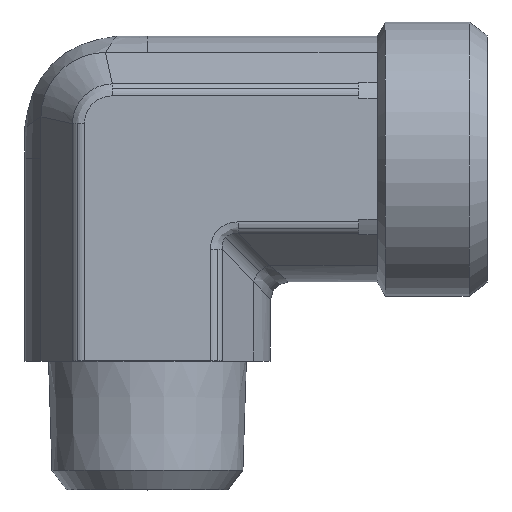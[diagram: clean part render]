
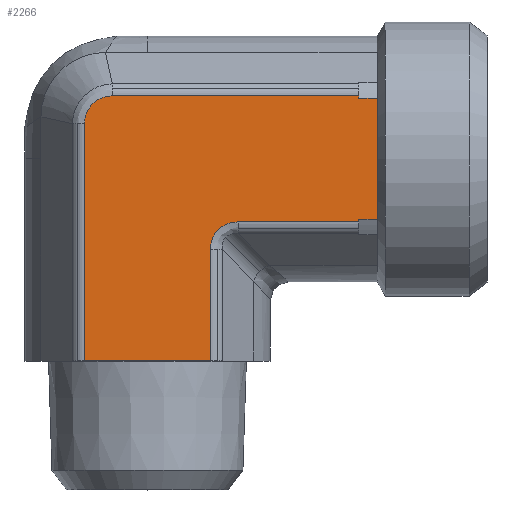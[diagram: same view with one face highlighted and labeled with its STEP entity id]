
A CAD part, top view. The second image highlights one B-rep face of the part: STEP entity #2266.
In plain terms, the highlighted planar face has unit normal (0, 0, 1) as drawn and (0, -1, 0) by its records, which use the part's own axes.
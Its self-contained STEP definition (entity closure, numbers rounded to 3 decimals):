
#319=CARTESIAN_POINT('',(5.387,-13.375,6.856));
#320=VERTEX_POINT('',#319);
#328=CARTESIAN_POINT('',(17.5,-13.375,6.856));
#329=VERTEX_POINT('',#328);
#330=CARTESIAN_POINT('',(5.387,-13.375,6.856));
#331=DIRECTION('',(1.0,0.0,0.0));
#332=VECTOR('',#331,12.113);
#333=LINE('',#330,#332);
#334=EDGE_CURVE('',#320,#329,#333,.T.);
#443=CARTESIAN_POINT('',(-11.356,-13.375,-3.819));
#444=VERTEX_POINT('',#443);
#452=CARTESIAN_POINT('',(-11.356,-13.375,23.0));
#453=VERTEX_POINT('',#452);
#454=CARTESIAN_POINT('',(-11.356,-13.375,-3.819));
#455=DIRECTION('',(0.0,0.0,1.0));
#456=VECTOR('',#455,26.819);
#457=LINE('',#454,#456);
#458=EDGE_CURVE('',#444,#453,#457,.T.);
#1825=CARTESIAN_POINT('',(2.356,-13.375,23.0));
#1826=VERTEX_POINT('',#1825);
#1827=CARTESIAN_POINT('',(2.089,-13.375,23.0));
#1828=VERTEX_POINT('',#1827);
#1829=CARTESIAN_POINT('',(2.356,-13.375,23.0));
#1830=DIRECTION('',(-1.0,0.0,0.0));
#1831=VECTOR('',#1830,0.267);
#1832=LINE('',#1829,#1831);
#1833=EDGE_CURVE('',#1826,#1828,#1832,.T.);
#1884=CARTESIAN_POINT('',(-11.089,-13.375,23.0));
#1885=VERTEX_POINT('',#1884);
#1886=CARTESIAN_POINT('',(-11.089,-13.375,23.0));
#1887=DIRECTION('',(-1.0,0.0,0.0));
#1888=VECTOR('',#1887,0.267);
#1889=LINE('',#1886,#1888);
#1890=EDGE_CURVE('',#1885,#453,#1889,.T.);
#1948=CARTESIAN_POINT('',(-11.089,-13.375,25.0));
#1949=VERTEX_POINT('',#1948);
#1950=CARTESIAN_POINT('',(-11.089,-13.375,25.0));
#1951=DIRECTION('',(0.0,0.0,-1.0));
#1952=VECTOR('',#1951,2.0);
#1953=LINE('',#1950,#1952);
#1954=EDGE_CURVE('',#1949,#1885,#1953,.T.);
#1971=CARTESIAN_POINT('',(2.089,-13.375,25.0));
#1972=VERTEX_POINT('',#1971);
#1973=CARTESIAN_POINT('',(2.089,-13.375,23.0));
#1974=DIRECTION('',(0.0,0.0,1.0));
#1975=VECTOR('',#1974,2.0);
#1976=LINE('',#1973,#1975);
#1977=EDGE_CURVE('',#1828,#1972,#1976,.T.);
#2178=CARTESIAN_POINT('',(-4.5,-13.375,25.0));
#2179=VERTEX_POINT('',#2178);
#2180=CARTESIAN_POINT('',(-4.5,-13.375,25.0));
#2181=DIRECTION('',(-1.0,0.0,0.0));
#2182=VECTOR('',#2181,6.589);
#2183=LINE('',#2180,#2182);
#2184=EDGE_CURVE('',#2179,#1949,#2183,.T.);
#2202=CARTESIAN_POINT('',(-4.5,-13.375,-3.175));
#2203=DIRECTION('',(0.0,-1.0,0.0));
#2204=DIRECTION('',(0.0,0.0,-1.0));
#2205=AXIS2_PLACEMENT_3D('',#2202,#2203,#2204);
#2206=PLANE('',#2205);
#2207=ORIENTED_EDGE('',*,*,#1954,.T.);
#2208=ORIENTED_EDGE('',*,*,#1890,.T.);
#2209=ORIENTED_EDGE('',*,*,#458,.F.);
#2210=CARTESIAN_POINT('',(-8.319,-13.375,-6.856));
#2211=VERTEX_POINT('',#2210);
#2212=CARTESIAN_POINT('',(-11.356,-13.375,-3.819));
#2213=CARTESIAN_POINT('',(-11.356,-13.375,-4.016));
#2214=CARTESIAN_POINT('',(-11.336,-13.375,-4.216));
#2215=CARTESIAN_POINT('',(-11.235,-13.375,-4.725));
#2216=CARTESIAN_POINT('',(-11.123,-13.375,-5.025));
#2217=CARTESIAN_POINT('',(-10.717,-13.375,-5.748));
#2218=CARTESIAN_POINT('',(-10.355,-13.375,-6.127));
#2219=CARTESIAN_POINT('',(-9.441,-13.375,-6.697));
#2220=CARTESIAN_POINT('',(-8.88,-13.375,-6.856));
#2221=CARTESIAN_POINT('',(-8.319,-13.375,-6.856));
#2222=B_SPLINE_CURVE_WITH_KNOTS('',3,(#2212,#2213,#2214,#2215,#2216,#2217,#2218,#2219,#2220,#2221),.UNSPECIFIED.,.F.,.U.,(4,2,2,2,4),(-4.746,-4.152,-3.203,-1.685,0.0),.UNSPECIFIED.);
#2223=EDGE_CURVE('',#2211,#444,#2222,.F.);
#2224=ORIENTED_EDGE('',*,*,#2223,.F.);
#2225=CARTESIAN_POINT('',(17.5,-13.375,-6.856));
#2226=VERTEX_POINT('',#2225);
#2227=CARTESIAN_POINT('',(17.5,-13.375,-6.856));
#2228=DIRECTION('',(-1.0,0.0,0.0));
#2229=VECTOR('',#2228,25.819);
#2230=LINE('',#2227,#2229);
#2231=EDGE_CURVE('',#2226,#2211,#2230,.T.);
#2232=ORIENTED_EDGE('',*,*,#2231,.F.);
#2233=CARTESIAN_POINT('',(17.5,-13.375,-6.856));
#2234=DIRECTION('',(0.0,0.0,1.0));
#2235=VECTOR('',#2234,13.712);
#2236=LINE('',#2233,#2235);
#2237=EDGE_CURVE('',#2226,#329,#2236,.T.);
#2238=ORIENTED_EDGE('',*,*,#2237,.T.);
#2239=ORIENTED_EDGE('',*,*,#334,.F.);
#2240=CARTESIAN_POINT('',(2.356,-13.375,9.887));
#2241=VERTEX_POINT('',#2240);
#2242=CARTESIAN_POINT('',(6.397,-13.375,10.897));
#2243=DIRECTION('',(0.,-1.0,0.));
#2244=DIRECTION('',(-0.707,0.,-0.707));
#2245=AXIS2_PLACEMENT_3D('',#2242,#2243,#2244);
#2246=ELLIPSE('',#2245,4.518,3.5);
#2247=EDGE_CURVE('',#2241,#320,#2246,.T.);
#2248=ORIENTED_EDGE('',*,*,#2247,.F.);
#2249=CARTESIAN_POINT('',(2.356,-13.375,23.0));
#2250=DIRECTION('',(0.0,0.0,-1.0));
#2251=VECTOR('',#2250,13.113);
#2252=LINE('',#2249,#2251);
#2253=EDGE_CURVE('',#1826,#2241,#2252,.T.);
#2254=ORIENTED_EDGE('',*,*,#2253,.F.);
#2255=ORIENTED_EDGE('',*,*,#1833,.T.);
#2256=ORIENTED_EDGE('',*,*,#1977,.T.);
#2257=CARTESIAN_POINT('',(2.089,-13.375,25.0));
#2258=DIRECTION('',(-1.0,0.0,0.0));
#2259=VECTOR('',#2258,6.589);
#2260=LINE('',#2257,#2259);
#2261=EDGE_CURVE('',#1972,#2179,#2260,.T.);
#2262=ORIENTED_EDGE('',*,*,#2261,.T.);
#2263=ORIENTED_EDGE('',*,*,#2184,.T.);
#2264=EDGE_LOOP('',(#2207,#2208,#2209,#2224,#2232,#2238,#2239,#2248,#2254,#2255,#2256,#2262,#2263));
#2265=FACE_OUTER_BOUND('',#2264,.T.);
#2266=ADVANCED_FACE('',(#2265),#2206,.T.);
